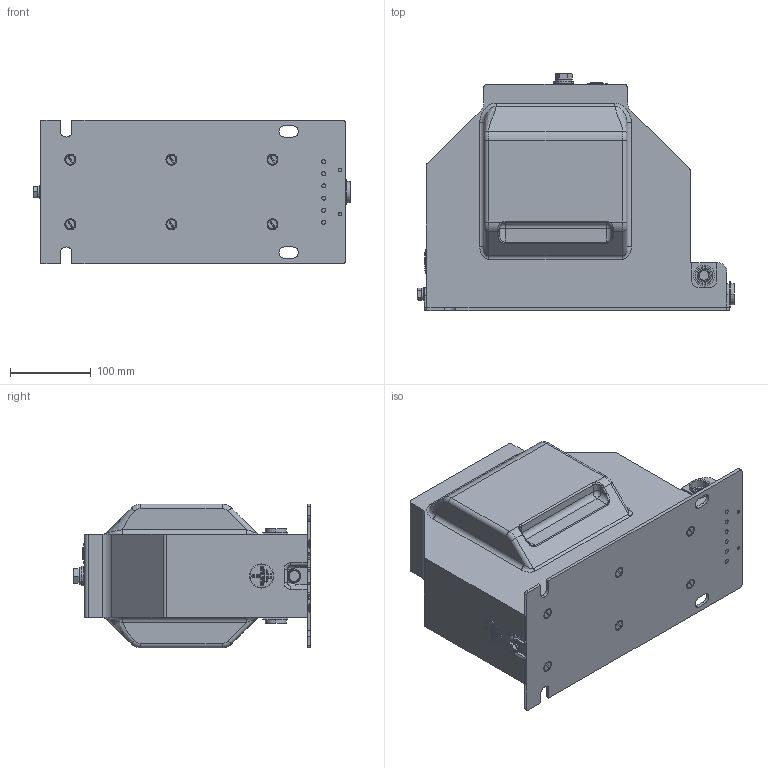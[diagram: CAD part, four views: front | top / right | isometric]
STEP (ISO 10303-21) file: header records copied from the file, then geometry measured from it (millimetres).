
FILE_DESCRIPTION (( 'STEP AP203' ), '1' );
FILE_NAME ('2211000999.STEP', '2017-11-07T12:20:40', ( '' ), ( '' ), 'SwSTEP 2.0', 'SolidWorks 2017', '' );
FILE_SCHEMA (( 'CONFIG_CONTROL_DESIGN' ));
Length unit declared in the file: millimetre
Products named in the file (1): 2211000999
Bounding box: 391.95 x 293.04 x 178 mm (x, y, z)
Volume: 10529599.9 mm3; surface area: 437436.4 mm2
Topology: 48 solids, 48 shells, 1961 faces, 4725 edges, 2925 vertices
Faces by surface type: plane 869, cylinder 589, torus 162, cone 156, bspline 112, sphere 73
Entity records: 72125 total; most frequent: CARTESIAN_POINT 26285, DIRECTION 9820, ORIENTED_EDGE 9332, EDGE_CURVE 4666, AXIS2_PLACEMENT_3D 3780, VERTEX_POINT 2925, VECTOR 2260, LINE 2260
